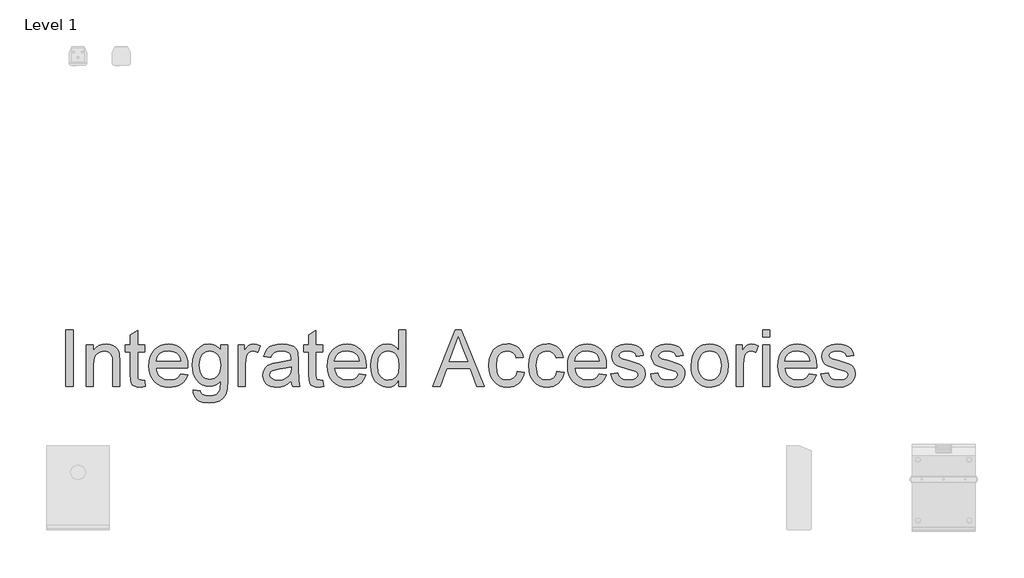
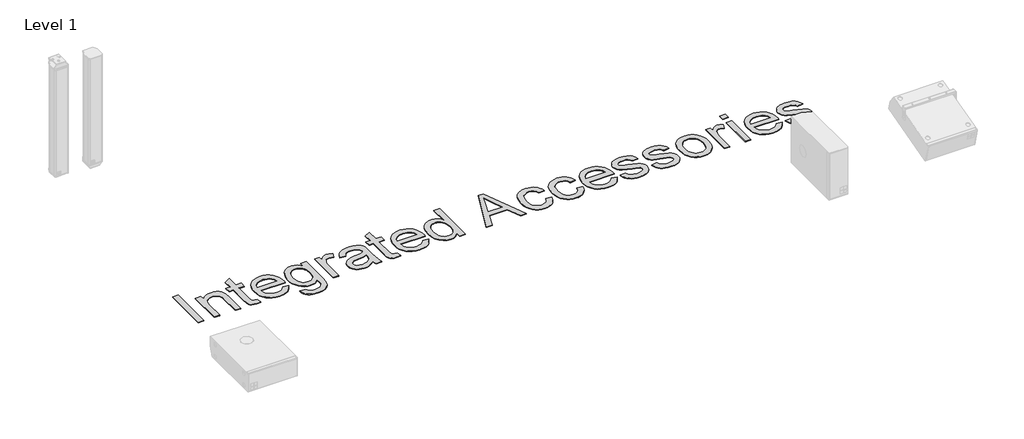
# One storey, part 3 of 8: 1 proxy.
"""IFC4 building model written with IfcOpenShell, lengths in millimetres."""

from ifc_helpers import new_model, si_unit, origin, origin_with_axes, place, context, project, spatial, polyline, outline, extrude, element, save

model = new_model("IFC4")

# Units and contexts
model_context = context("Model", 3, world=origin())
ifc_project = project(units=[si_unit("LENGTHUNIT", "METRE", prefix="MILLI")], contexts=[model_context])

# Site, building, storey
site = spatial("IfcSite", under=ifc_project)
building = spatial("IfcBuilding", under=site)
storey = spatial("IfcBuildingStorey", under=building, Name="Level 1", Elevation=0.0)

# Proxy
placement = place(None, origin())
element("IfcBuildingElementProxy", 1, Name="400mm Arial", ObjectType="400mm Arial", at=placement, inside=storey, context=model_context, shape_type="SweptSolid", body=[
    extrude(outline(polyline([(-11437.7764845, 8351.3054836), (-11437.7764845, 8743.0630593), (-11388.8067875, 8743.0630593), (-11388.8067875, 8351.3054836), (-11437.7764845, 8351.3054836)])), origin_with_axes(), (0.0, 0.0, 1.0), 5.0),
    extrude(outline(polyline([(-11296.9886057, 8351.3054836), (-11296.9886057, 8639.0024533), (-11248.0189088, 8639.0024533), (-11248.0189088, 8598.8319987), (-11231.006243, 8619.0846029), (-11210.5743065, 8633.5507487), (-11186.7230991, 8642.2304362), (-11159.4526209, 8645.1236654), (-11135.3144817, 8642.7923444), (-11113.2087762, 8635.7983813), (-11094.7734069, 8625.0145271), (-11081.6462762, 8611.3135328), (-11072.7394343, 8594.7312648), (-11066.9649315, 8575.3035896), (-11064.3825451, 8527.9598396), (-11064.3825451, 8351.3054836), (-11113.3522421, 8351.3054836), (-11113.3522421, 8521.3604078), (-11114.7629902, 8546.6821408), (-11118.9952345, 8564.6871124), (-11126.8021711, 8577.5870887), (-11138.9369959, 8587.5938358), (-11154.4910915, 8594.0139353), (-11172.5558406, 8596.1539684), (-11201.2370669, 8591.3478605), (-11225.6860489, 8576.9295366), (-11235.4566751, 8565.1593543), (-11242.4356938, 8549.0732393), (-11246.623105, 8528.6711914), (-11248.0189088, 8503.9532108), (-11248.0189088, 8351.3054836), (-11296.9886057, 8351.3054836)])), origin_with_axes(), (0.0, 0.0, 1.0), 5.0),
    extrude(outline(polyline([(-10892.9886057, 8392.1454457), (-10886.8673936, 8349.8708245), (-10923.4990224, 8345.1842715), (-10947.0035205, 8347.2167052), (-10964.5302724, 8353.3140063), (-10976.9161625, 8362.7110233), (-10984.9980754, 8374.6426048), (-10989.4455186, 8395.1343188), (-10990.9279997, 8430.2117336), (-10990.9279997, 8590.0327563), (-11027.6552724, 8590.0327563), (-11027.6552724, 8639.0024533), (-10990.9279997, 8639.0024533), (-10990.9279997, 8708.918173), (-10941.9583027, 8737.7069987), (-10941.9583027, 8639.0024533), (-10892.9886057, 8639.0024533), (-10892.9886057, 8590.0327563), (-10941.9583027, 8590.0327563), (-10941.9583027, 8431.6463927), (-10939.3759163, 8406.3963927), (-10931.0070716, 8397.4536843), (-10914.3172042, 8394.1539684), (-10892.9886057, 8392.1454457)])), origin_with_axes(), (0.0, 0.0, 1.0), 5.0),
    extrude(outline(polyline([(-10642.5927724, 8437.0024533), (-10594.5795148, 8430.8812411), (-10601.9411093, 8411.6508316), (-10611.8791124, 8394.7039211), (-10624.3935241, 8380.0405096), (-10639.4843444, 8367.6605972), (-10656.9961519, 8357.8272047), (-10676.7735252, 8350.8033529), (-10723.1249694, 8345.1842715), (-10753.5098534, 8347.6082475), (-10780.583066, 8354.8801758), (-10804.3446071, 8367.0000563), (-10824.7944769, 8383.9678889), (-10841.2392568, 8405.3114317), (-10852.9855281, 8430.5584429), (-10860.0332909, 8459.7089223), (-10862.3825451, 8492.7628699), (-10860.0093799, 8526.937645), (-10852.8898841, 8557.0595082), (-10841.0240579, 8583.1284594), (-10824.4119012, 8605.1444987), (-10804.0158311, 8622.6353841), (-10780.7982648, 8635.1288737), (-10754.7592023, 8642.6249675), (-10725.8986436, 8645.1236654), (-10697.9676244, 8642.6309452), (-10672.7086578, 8635.1527847), (-10650.1217438, 8622.6891839), (-10630.2068822, 8605.2401427), (-10613.9504014, 8583.2719253), (-10602.3386294, 8557.2507961), (-10595.3715662, 8527.1767549), (-10593.0492118, 8493.0498018), (-10593.3361436, 8479.8509381), (-10813.4128482, 8479.8509381), (-10810.5764076, 8460.3096858), (-10804.936404, 8443.1953983), (-10796.4928375, 8428.5080759), (-10785.245708, 8416.2477184), (-10756.8275025, 8399.6774059), (-10722.16853, 8394.1539684), (-10696.1055565, 8396.7124438), (-10674.1552724, 8404.3878699), (-10656.3176777, 8417.6584665), (-10642.5927724, 8437.0024533)]), holes=[polyline([(-10813.4128482, 8528.8206351), (-10642.0189088, 8528.8206351), (-10648.6422516, 8554.6923207), (-10661.6259163, 8573.199423), (-10674.9802014, 8583.2420366), (-10690.1756322, 8590.4153321), (-10726.0899315, 8596.1539684), (-10759.0990461, 8591.5750148), (-10786.3934353, 8577.838154), (-10805.3668018, 8556.4258671), (-10813.4128482, 8528.8206351)])]), origin_with_axes(), (0.0, 0.0, 1.0), 5.0),
    extrude(outline(polyline([(-10556.3219391, 8326.8206351), (-10507.3522421, 8320.699423), (-10501.9483595, 8305.3963927), (-10491.4753482, 8294.8755593), (-10470.8879902, 8286.6980025), (-10443.9403103, 8283.9721502), (-10415.1993065, 8287.0566673), (-10393.822886, 8296.3102184), (-10378.9980754, 8311.135029), (-10369.9119012, 8330.9333245), (-10366.5643633, 8388.0327563), (-10382.8596995, 8371.9645745), (-10401.0440035, 8360.4873018), (-10421.1172752, 8353.6009381), (-10443.0795148, 8351.3054836), (-10469.9285619, 8353.9775361), (-10493.5675593, 8361.9936938), (-10513.996507, 8375.3539566), (-10531.215405, 8394.0583245), (-10544.8775439, 8416.4987838), (-10554.6362146, 8441.0673207), (-10560.491417, 8467.7639353), (-10562.4431512, 8496.5886275), (-10558.9401919, 8536.125441), (-10548.4313141, 8572.4820934), (-10531.2871379, 8603.2913974), (-10507.8782838, 8626.1861654), (-10479.0057696, 8640.3892904), (-10445.4706133, 8645.1236654), (-10422.5698676, 8642.4456351), (-10401.785244, 8634.4115442), (-10383.1167426, 8621.0213927), (-10366.5643633, 8602.2751805), (-10366.5643633, 8639.0024533), (-10317.5946663, 8639.0024533), (-10317.5946663, 8390.6151427), (-10320.9422042, 8333.2646455), (-10330.9848179, 8295.4972449), (-10348.2844154, 8270.4504883), (-10373.402905, 8251.261923), (-10405.7903339, 8239.0673207), (-10444.8967497, 8235.0024533), (-10490.4591313, 8240.7291341), (-10509.6088413, 8247.8874852), (-10526.3375641, 8257.9091768), (-10539.8502594, 8270.8061642), (-10549.351887, 8286.5904031), (-10554.8424469, 8305.2618934), (-10556.3219391, 8326.8206351)]), holes=[polyline([(-10513.4734542, 8499.9361654), (-10508.248904, 8455.0193804), (-10501.7182163, 8437.8243934), (-10492.5752535, 8424.1383434), (-10481.4596344, 8413.6982097), (-10469.0109779, 8406.2409713), (-10455.229284, 8401.7666282), (-10440.1145527, 8400.2751805), (-10411.4333264, 8406.2051048), (-10387.7494959, 8423.9948775), (-10378.4810004, 8437.5464282), (-10371.8606464, 8454.4813832), (-10366.5643633, 8498.5015063), (-10372.0160679, 8540.9554599), (-10378.8306985, 8557.7260269), (-10388.3711815, 8571.525654), (-10412.4017213, 8589.9968898), (-10426.0847823, 8594.6146988), (-10440.8797042, 8596.1539684), (-10455.4265496, 8594.6386098), (-10468.843601, 8590.0925338), (-10492.2883216, 8571.9082298), (-10501.5568171, 8558.3178238), (-10508.1771711, 8541.7923444), (-10513.4734542, 8499.9361654)])]), origin_with_axes(), (0.0, 0.0, 1.0), 5.0),
    extrude(outline(polyline([(-10244.1401209, 8351.3054836), (-10244.1401209, 8639.0024533), (-10201.291636, 8639.0024533), (-10201.291636, 8596.4409002), (-10185.4625641, 8621.1170366), (-10170.8768633, 8635.6549154), (-10156.2433406, 8642.7564779), (-10140.2708027, 8645.1236654), (-10115.8815982, 8641.3457298), (-10091.1098179, 8630.011923), (-10107.4649315, 8586.1113548), (-10124.6808406, 8593.643315), (-10141.8967497, 8596.1539684), (-10156.5183169, 8593.738959), (-10169.5856701, 8586.4939305), (-10180.1423699, 8574.9688358), (-10187.2319769, 8559.7136275), (-10193.1858122, 8532.3594608), (-10195.1704239, 8502.5185518), (-10195.1704239, 8351.3054836), (-10244.1401209, 8351.3054836)])), origin_with_axes(), (0.0, 0.0, 1.0), 5.0),
    extrude(outline(polyline([(-9876.8673936, 8388.0327563), (-9900.2642923, 8367.97144), (-9924.3546095, 8354.8443093), (-9949.688298, 8347.5992809), (-9976.8153103, 8345.1842715), (-9998.6191396, 8346.6368638), (-10017.7389608, 8350.9946408), (-10034.1747741, 8358.2576024), (-10047.9265792, 8368.4257487), (-10058.7851552, 8380.8534831), (-10066.5412809, 8394.895209), (-10071.1949563, 8410.5509263), (-10072.7461815, 8427.8206351), (-10070.402905, 8448.1210612), (-10063.3730754, 8466.5564305), (-10052.5294438, 8482.3376805), (-10038.744761, 8494.6757487), (-10004.4564088, 8510.7439305), (-9962.0861436, 8518.1085139), (-9912.0165413, 8525.855673), (-9877.1543254, 8534.9418472), (-9876.8673936, 8545.8452563), (-9880.2388425, 8567.6998965), (-9890.3531891, 8581.9986654), (-9912.9729807, 8592.6151427), (-9944.4876588, 8596.1539684), (-9973.6590603, 8593.7987364), (-9994.0312194, 8586.7330404), (-10007.9235016, 8573.6656872), (-10017.6552724, 8553.3054836), (-10066.6249694, 8559.4266957), (-10058.1246143, 8586.2069987), (-10045.4398368, 8607.2486654), (-10027.3870432, 8623.3407582), (-10002.7826398, 8635.2723396), (-9972.6906654, 8642.660834), (-9938.1751588, 8645.1236654), (-9905.0704002, 8642.9477658), (-9878.8280944, 8636.4200669), (-9859.0417544, 8626.6046076), (-9845.3048936, 8614.5654268), (-9836.1948084, 8599.6808387), (-9830.2887951, 8581.3291578), (-9827.8976966, 8538.480673), (-9827.8976966, 8477.5554836), (-9825.4109542, 8392.4801995), (-9815.6552724, 8351.3054836), (-9864.6249694, 8351.3054836), (-9872.4677724, 8368.3301048), (-9876.8673936, 8388.0327563)]), holes=[polyline([(-9876.8673936, 8485.9721502), (-9909.7689088, 8477.8185044), (-9955.8692875, 8470.9560518), (-9998.0004429, 8463.0176048), (-10008.9636294, 8457.5898112), (-10017.0814088, 8450.105673), (-10022.1027156, 8441.1390536), (-10023.7764845, 8431.2638169), (-10020.1300593, 8416.7020271), (-10009.1907838, 8404.7704457), (-9991.1977677, 8396.8080877), (-9966.3901209, 8394.1539684), (-9940.0880375, 8397.0830641), (-9916.8465603, 8405.870351), (-9898.0047042, 8418.8181493), (-9884.9014845, 8434.228779), (-9879.0911152, 8450.105673), (-9877.1543254, 8472.103779), (-9876.8673936, 8485.9721502)])]), origin_with_axes(), (0.0, 0.0, 1.0), 5.0),
    extrude(outline(polyline([(-9656.5037572, 8392.1454457), (-9650.3825451, 8349.8708245), (-9687.0141739, 8345.1842715), (-9710.518672, 8347.2167052), (-9728.0454239, 8353.3140063), (-9740.4313141, 8362.7110233), (-9748.5132269, 8374.6426048), (-9752.9606701, 8395.1343188), (-9754.4431512, 8430.2117336), (-9754.4431512, 8590.0327563), (-9791.1704239, 8590.0327563), (-9791.1704239, 8639.0024533), (-9754.4431512, 8639.0024533), (-9754.4431512, 8708.918173), (-9705.4734542, 8737.7069987), (-9705.4734542, 8639.0024533), (-9656.5037572, 8639.0024533), (-9656.5037572, 8590.0327563), (-9705.4734542, 8590.0327563), (-9705.4734542, 8431.6463927), (-9702.8910679, 8406.3963927), (-9694.5222232, 8397.4536843), (-9677.8323557, 8394.1539684), (-9656.5037572, 8392.1454457)])), origin_with_axes(), (0.0, 0.0, 1.0), 5.0),
    extrude(outline(polyline([(-9406.1079239, 8437.0024533), (-9358.0946663, 8430.8812411), (-9365.4562608, 8411.6508316), (-9375.3942639, 8394.7039211), (-9387.9086756, 8380.0405096), (-9402.9994959, 8367.6605972), (-9420.5113034, 8357.8272047), (-9440.2886768, 8350.8033529), (-9486.6401209, 8345.1842715), (-9517.0250049, 8347.6082475), (-9544.0982175, 8354.8801758), (-9567.8597587, 8367.0000563), (-9588.3096285, 8383.9678889), (-9604.7544083, 8405.3114317), (-9616.5006796, 8430.5584429), (-9623.5484424, 8459.7089223), (-9625.8976966, 8492.7628699), (-9623.5245314, 8526.937645), (-9616.4050357, 8557.0595082), (-9604.5392094, 8583.1284594), (-9587.9270527, 8605.1444987), (-9567.5309826, 8622.6353841), (-9544.3134163, 8635.1288737), (-9518.2743538, 8642.6249675), (-9489.4137951, 8645.1236654), (-9461.4827759, 8642.6309452), (-9436.2238093, 8635.1527847), (-9413.6368953, 8622.6891839), (-9393.7220338, 8605.2401427), (-9377.4655529, 8583.2719253), (-9365.8537809, 8557.2507961), (-9358.8867177, 8527.1767549), (-9356.5643633, 8493.0498018), (-9356.8512951, 8479.8509381), (-9576.9279997, 8479.8509381), (-9574.0915591, 8460.3096858), (-9568.4515555, 8443.1953983), (-9560.007989, 8428.5080759), (-9548.7608595, 8416.2477184), (-9520.342654, 8399.6774059), (-9485.6836815, 8394.1539684), (-9459.620708, 8396.7124438), (-9437.6704239, 8404.3878699), (-9419.8328292, 8417.6584665), (-9406.1079239, 8437.0024533)]), holes=[polyline([(-9576.9279997, 8528.8206351), (-9405.5340603, 8528.8206351), (-9412.1574031, 8554.6923207), (-9425.1410679, 8573.199423), (-9438.4953529, 8583.2420366), (-9453.6907838, 8590.4153321), (-9489.605083, 8596.1539684), (-9522.6141976, 8591.5750148), (-9549.9085868, 8577.838154), (-9568.8819533, 8556.4258671), (-9576.9279997, 8528.8206351)])]), origin_with_axes(), (0.0, 0.0, 1.0), 5.0),
    extrude(outline(polyline([(-9130.0795148, 8351.3054836), (-9130.0795148, 8397.5015063), (-9144.7309708, 8374.6127161), (-9162.4788993, 8358.2635802), (-9183.3233003, 8348.4540986), (-9207.2641739, 8345.1842715), (-9238.9223179, 8349.9186465), (-9267.9024315, 8364.1217715), (-9292.4351019, 8386.8013406), (-9310.7509163, 8416.965048), (-9322.1564561, 8453.3934334), (-9325.9583027, 8494.8670366), (-9322.4553434, 8535.8265536), (-9311.9464656, 8572.8168472), (-9294.4436247, 8603.7337506), (-9269.9587762, 8626.4730972), (-9240.3450214, 8640.4610233), (-9207.4554618, 8645.1236654), (-9183.496655, 8641.788083), (-9162.3115224, 8631.7813358), (-9144.3543728, 8616.4424391), (-9130.0795148, 8597.1104078), (-9130.0795148, 8743.0630593), (-9081.1098179, 8743.0630593), (-9081.1098179, 8351.3054836), (-9130.0795148, 8351.3054836)]), holes=[polyline([(-9276.9886057, 8495.0583245), (-9271.4651682, 8450.763225), (-9264.5608714, 8433.4128167), (-9254.8948557, 8419.2605025), (-9230.816494, 8400.4306019), (-9217.2888543, 8395.7231268), (-9202.7689088, 8394.1539684), (-9174.733279, 8400.1436701), (-9151.2646474, 8418.1127752), (-9141.9961519, 8431.6732925), (-9135.375798, 8448.3960375), (-9130.0795148, 8491.3282108), (-9135.4714419, 8538.2654741), (-9142.2113508, 8556.3362009), (-9151.6472232, 8570.8083245), (-9163.0557518, 8581.8970437), (-9175.7136294, 8589.8175574), (-9189.620856, 8594.5698657), (-9204.7774315, 8596.1539684), (-9219.5843089, 8594.632632), (-9233.1119485, 8590.0686228), (-9245.3603505, 8582.4619407), (-9256.3295148, 8571.8125858), (-9265.3678671, 8557.887426), (-9271.823833, 8540.4533292), (-9276.9886057, 8495.0583245)])]), origin_with_axes(), (0.0, 0.0, 1.0), 5.0),
    extrude(outline(polyline([(-8894.1259163, 8351.3054836), (-8737.7480754, 8743.0630593), (-8696.0473179, 8743.0630593), (-8539.6694769, 8351.3054836), (-8591.4128482, 8351.3054836), (-8636.2698557, 8473.729726), (-8797.6211815, 8473.729726), (-8842.3825451, 8351.3054836), (-8894.1259163, 8351.3054836)]), holes=[polyline([(-8779.6401209, 8522.699423), (-8654.1552724, 8522.699423), (-8689.447886, 8619.0128699), (-8716.8976966, 8694.0933624), (-8741.2869012, 8627.4295366), (-8779.6401209, 8522.699423)])]), origin_with_axes(), (0.0, 0.0, 1.0), 5.0),
    extrude(outline(polyline([(-8309.8370906, 8455.3660896), (-8260.8673936, 8449.2448775), (-8266.1935655, 8426.1378995), (-8274.520566, 8405.6910186), (-8285.848395, 8387.9042348), (-8300.1770527, 8372.777548), (-8316.9027866, 8360.7054895), (-8335.4218444, 8352.0825906), (-8355.734226, 8346.9088512), (-8377.8399315, 8345.1842715), (-8405.3046865, 8347.5903143), (-8429.930012, 8354.8084429), (-8451.715908, 8366.8386571), (-8470.6623747, 8383.6809571), (-8485.9982826, 8405.0185222), (-8496.9525025, 8430.5345319), (-8503.5250345, 8460.2289862), (-8505.7158785, 8494.1018851), (-8501.9738093, 8537.679655), (-8490.7476019, 8575.4470555), (-8471.8579239, 8605.9455167), (-8445.1254429, 8627.7164684), (-8413.1445006, 8640.7718661), (-8378.5094391, 8645.1236654), (-8356.7833205, 8643.6292288), (-8337.1314798, 8639.1459192), (-8319.553917, 8631.6737364), (-8304.0506322, 8621.2126805), (-8290.8846462, 8608.0018614), (-8280.3189798, 8592.2803889), (-8272.353633, 8574.0482629), (-8266.9886057, 8553.3054836), (-8315.9583027, 8547.1842715), (-8324.8412336, 8568.5487364), (-8338.6737383, 8583.8637222), (-8356.6906654, 8593.0814069), (-8378.1268633, 8596.1539684), (-8394.7659199, 8594.6415986), (-8409.7730518, 8590.1044893), (-8423.1482589, 8582.5426403), (-8434.8915413, 8571.9560518), (-8444.4529464, 8558.099636), (-8451.2825214, 8540.7283055), (-8456.7461815, 8495.4409002), (-8451.4020764, 8449.5437648), (-8444.721945, 8432.0558683), (-8435.369761, 8418.2084192), (-8423.8596107, 8407.684597), (-8410.7055802, 8400.1675811), (-8395.9076694, 8395.6573716), (-8379.4658785, 8394.1539684), (-8354.108279, 8397.907993), (-8333.3176777, 8409.1700669), (-8318.1939798, 8428.2271218), (-8309.8370906, 8455.3660896)])), origin_with_axes(), (0.0, 0.0, 1.0), 5.0),
    extrude(outline(polyline([(-8034.3825451, 8455.3660896), (-7985.4128482, 8449.2448775), (-7990.73902, 8426.1378995), (-7999.0660205, 8405.6910186), (-8010.3938496, 8387.9042348), (-8024.7225072, 8372.777548), (-8041.4482411, 8360.7054895), (-8059.9672989, 8352.0825906), (-8080.2796805, 8346.9088512), (-8102.385386, 8345.1842715), (-8129.850141, 8347.5903143), (-8154.4754665, 8354.8084429), (-8176.2613626, 8366.8386571), (-8195.2078292, 8383.6809571), (-8210.5437371, 8405.0185222), (-8221.4979571, 8430.5345319), (-8228.070489, 8460.2289862), (-8230.261333, 8494.1018851), (-8226.5192639, 8537.679655), (-8215.2930565, 8575.4470555), (-8196.4033785, 8605.9455167), (-8169.6708974, 8627.7164684), (-8137.6899552, 8640.7718661), (-8103.0548936, 8645.1236654), (-8081.328775, 8643.6292288), (-8061.6769343, 8639.1459192), (-8044.0993716, 8631.6737364), (-8028.5960868, 8621.2126805), (-8015.4301008, 8608.0018614), (-8004.8644343, 8592.2803889), (-7996.8990875, 8574.0482629), (-7991.5340603, 8553.3054836), (-8040.5037572, 8547.1842715), (-8049.3866881, 8568.5487364), (-8063.2191929, 8583.8637222), (-8081.2361199, 8593.0814069), (-8102.6723179, 8596.1539684), (-8119.3113744, 8594.6415986), (-8134.3185063, 8590.1044893), (-8147.6937134, 8582.5426403), (-8159.4369959, 8571.9560518), (-8168.9984009, 8558.099636), (-8175.827976, 8540.7283055), (-8181.291636, 8495.4409002), (-8175.9475309, 8449.5437648), (-8169.2673995, 8432.0558683), (-8159.9152156, 8418.2084192), (-8148.4050652, 8407.684597), (-8135.2510347, 8400.1675811), (-8120.453124, 8395.6573716), (-8104.011333, 8394.1539684), (-8078.6537336, 8397.907993), (-8057.8631322, 8409.1700669), (-8042.7394343, 8428.2271218), (-8034.3825451, 8455.3660896)])), origin_with_axes(), (0.0, 0.0, 1.0), 5.0),
    extrude(outline(polyline([(-7741.1382269, 8437.0024533), (-7693.1249694, 8430.8812411), (-7700.4865638, 8411.6508316), (-7710.4245669, 8394.7039211), (-7722.9389786, 8380.0405096), (-7738.0297989, 8367.6605972), (-7755.5416064, 8357.8272047), (-7775.3189798, 8350.8033529), (-7821.6704239, 8345.1842715), (-7852.0553079, 8347.6082475), (-7879.1285205, 8354.8801758), (-7902.8900617, 8367.0000563), (-7923.3399315, 8383.9678889), (-7939.7847113, 8405.3114317), (-7951.5309826, 8430.5584429), (-7958.5787454, 8459.7089223), (-7960.9279997, 8492.7628699), (-7958.5548344, 8526.937645), (-7951.4353387, 8557.0595082), (-7939.5695125, 8583.1284594), (-7922.9573557, 8605.1444987), (-7902.5612857, 8622.6353841), (-7879.3437194, 8635.1288737), (-7853.3046569, 8642.6249675), (-7824.4440982, 8645.1236654), (-7796.513079, 8642.6309452), (-7771.2541124, 8635.1527847), (-7748.6671983, 8622.6891839), (-7728.7523368, 8605.2401427), (-7712.495856, 8583.2719253), (-7700.8840839, 8557.2507961), (-7693.9170207, 8527.1767549), (-7691.5946663, 8493.0498018), (-7691.8815982, 8479.8509381), (-7911.9583027, 8479.8509381), (-7909.1218621, 8460.3096858), (-7903.4818586, 8443.1953983), (-7895.038292, 8428.5080759), (-7883.7911625, 8416.2477184), (-7855.3729571, 8399.6774059), (-7820.7139845, 8394.1539684), (-7794.651011, 8396.7124438), (-7772.7007269, 8404.3878699), (-7754.8631322, 8417.6584665), (-7741.1382269, 8437.0024533)]), holes=[polyline([(-7911.9583027, 8528.8206351), (-7740.5643633, 8528.8206351), (-7747.1877061, 8554.6923207), (-7760.1713709, 8573.199423), (-7773.5256559, 8583.2420366), (-7788.7210868, 8590.4153321), (-7824.635386, 8596.1539684), (-7857.6445006, 8591.5750148), (-7884.9388898, 8577.838154), (-7903.9122563, 8556.4258671), (-7911.9583027, 8528.8206351)])]), origin_with_axes(), (0.0, 0.0, 1.0), 5.0),
    extrude(outline(polyline([(-7660.9886057, 8437.0024533), (-7612.0189088, 8443.1236654), (-7604.2956607, 8422.1776427), (-7589.3512951, 8406.7789684), (-7567.0901682, 8397.3102184), (-7537.416636, 8394.1539684), (-7508.1017686, 8397.0471976), (-7487.4904997, 8405.7268851), (-7475.2958974, 8418.3040631), (-7471.23103, 8432.8897639), (-7475.3198084, 8445.371298), (-7487.5861436, 8454.8878699), (-7537.9904997, 8468.8518851), (-7611.7319769, 8492.8106919), (-7630.3945006, 8504.8498728), (-7643.9161625, 8520.7865442), (-7652.1295858, 8539.6044893), (-7654.8673936, 8560.2874911), (-7652.667583, 8579.2608576), (-7646.0681512, 8596.775654), (-7635.6668728, 8612.1384618), (-7622.0615224, 8624.6558624), (-7590.9294201, 8639.1459192), (-7548.7982648, 8645.1236654), (-7516.924922, 8642.7206114), (-7489.2120906, 8635.5114495), (-7466.9270527, 8624.2015536), (-7451.3370906, 8609.496298), (-7441.0075451, 8590.3077326), (-7434.5037572, 8565.5479078), (-7483.4734542, 8559.4266957), (-7489.6544438, 8574.8373254), (-7501.8849125, 8586.4461086), (-7520.2844154, 8593.7270035), (-7544.9725072, 8596.1539684), (-7573.0918254, 8593.8346029), (-7591.8380375, 8586.8765063), (-7602.3827819, 8576.8338927), (-7605.8976966, 8565.260976), (-7600.0634163, 8551.010029), (-7581.7954239, 8540.2022639), (-7539.6164466, 8529.7770745), (-7467.7400262, 8506.7268851), (-7448.7547042, 8495.7039211), (-7434.3602913, 8480.6160896), (-7425.2860726, 8461.4155688), (-7422.261333, 8438.0545366), (-7425.8121143, 8413.9044419), (-7436.464458, 8391.1890063), (-7453.8118775, 8371.6895982), (-7477.447886, 8357.1875858), (-7505.9976019, 8348.1851), (-7538.0861436, 8345.1842715), (-7564.4420267, 8346.630886), (-7587.4623273, 8350.9707298), (-7607.1470456, 8358.2038027), (-7623.4961815, 8368.3301048), (-7636.8504665, 8381.3018141), (-7647.5506322, 8397.0711086), (-7655.5966786, 8415.6379883), (-7660.9886057, 8437.0024533)])), origin_with_axes(), (0.0, 0.0, 1.0), 5.0),
    extrude(outline(polyline([(-7385.5340603, 8437.0024533), (-7336.5643633, 8443.1236654), (-7328.8411152, 8422.1776427), (-7313.8967497, 8406.7789684), (-7291.6356228, 8397.3102184), (-7261.9620906, 8394.1539684), (-7232.6472232, 8397.0471976), (-7212.0359542, 8405.7268851), (-7199.8413519, 8418.3040631), (-7195.7764845, 8432.8897639), (-7199.8652629, 8445.371298), (-7212.1315982, 8454.8878699), (-7262.5359542, 8468.8518851), (-7336.2774315, 8492.8106919), (-7354.9399552, 8504.8498728), (-7368.4616171, 8520.7865442), (-7376.6750404, 8539.6044893), (-7379.4128482, 8560.2874911), (-7377.2130375, 8579.2608576), (-7370.6136057, 8596.775654), (-7360.2123273, 8612.1384618), (-7346.6069769, 8624.6558624), (-7315.4748747, 8639.1459192), (-7273.3437194, 8645.1236654), (-7241.4703766, 8642.7206114), (-7213.7575451, 8635.5114495), (-7191.4725072, 8624.2015536), (-7175.8825451, 8609.496298), (-7165.5529997, 8590.3077326), (-7159.0492118, 8565.5479078), (-7208.0189088, 8559.4266957), (-7214.1998983, 8574.8373254), (-7226.4303671, 8586.4461086), (-7244.8298699, 8593.7270035), (-7269.5179618, 8596.1539684), (-7297.63728, 8593.8346029), (-7316.3834921, 8586.8765063), (-7326.9282364, 8576.8338927), (-7330.4431512, 8565.260976), (-7324.6088709, 8551.010029), (-7306.3408785, 8540.2022639), (-7264.1619012, 8529.7770745), (-7192.2854807, 8506.7268851), (-7173.3001588, 8495.7039211), (-7158.9057459, 8480.6160896), (-7149.8315271, 8461.4155688), (-7146.8067875, 8438.0545366), (-7150.3575688, 8413.9044419), (-7161.0099125, 8391.1890063), (-7178.3573321, 8371.6895982), (-7201.9933406, 8357.1875858), (-7230.5430565, 8348.1851), (-7262.6315982, 8345.1842715), (-7288.9874812, 8346.630886), (-7312.0077819, 8350.9707298), (-7331.6925001, 8358.2038027), (-7348.041636, 8368.3301048), (-7361.3959211, 8381.3018141), (-7372.0960868, 8397.0711086), (-7380.1421332, 8415.6379883), (-7385.5340603, 8437.0024533)])), origin_with_axes(), (0.0, 0.0, 1.0), 5.0),
    extrude(outline(polyline([(-7103.9583027, 8495.1539684), (-7101.3101611, 8532.4132606), (-7093.3657364, 8564.5197355), (-7080.1250286, 8591.4733931), (-7061.5880375, 8613.2742336), (-7042.9255139, 8627.20836), (-7022.3262004, 8637.1613074), (-6999.7900972, 8643.1330759), (-6975.3172042, 8645.1236654), (-6948.3007802, 8642.6996893), (-6923.8727203, 8635.427761), (-6902.0330245, 8623.3078806), (-6882.7816929, 8606.340048), (-6867.0691869, 8585.0981268), (-6855.8459684, 8560.1559807), (-6849.1120373, 8531.5136098), (-6846.8673936, 8499.1710139), (-6850.8366171, 8449.6991862), (-6862.7442875, 8412.0393851), (-6882.2436957, 8383.8363785), (-6908.9881322, 8362.7349343), (-6940.7538756, 8349.5719372), (-6975.3172042, 8345.1842715), (-7002.7281595, 8347.5992809), (-7027.3833737, 8354.8443093), (-7049.282847, 8366.9193567), (-7068.4265792, 8383.824423), (-7083.9717082, 8405.2725764), (-7095.0753718, 8430.9768851), (-7101.73757, 8460.9373491), (-7103.9583027, 8495.1539684)]), holes=[polyline([(-7054.9886057, 8495.2496124), (-7053.5718799, 8471.4970378), (-7049.3217023, 8450.9306019), (-7042.2380731, 8433.5503048), (-7032.3209921, 8419.3561465), (-7020.2579002, 8408.3301936), (-7006.7362383, 8400.4545129), (-6991.7560063, 8395.7291045), (-6975.3172042, 8394.1539684), (-6958.9620906, 8395.7380712), (-6944.041636, 8400.4903794), (-6930.5558406, 8408.4108931), (-6918.5047042, 8419.4996124), (-6908.5876232, 8433.8342478), (-6901.503994, 8451.4925101), (-6897.2538164, 8472.4743993), (-6895.8370906, 8496.7799154), (-6897.262783, 8519.7792939), (-6901.5398605, 8539.8077326), (-6908.6683228, 8556.8652314), (-6918.6481701, 8570.9517904), (-6930.7441396, 8581.9777433), (-6944.2209684, 8589.8534239), (-6959.0786566, 8594.5788323), (-6975.3172042, 8596.1539684), (-6991.7560063, 8594.58481), (-7006.7362383, 8589.8773349), (-7020.2579002, 8582.031543), (-7032.3209921, 8571.0474343), (-7042.2380731, 8556.8951202), (-7049.3217023, 8539.5447118), (-7053.5718799, 8518.9962092), (-7054.9886057, 8495.2496124)])]), origin_with_axes(), (0.0, 0.0, 1.0), 5.0),
    extrude(outline(polyline([(-6791.7764845, 8351.3054836), (-6791.7764845, 8639.0024533), (-6748.9279997, 8639.0024533), (-6748.9279997, 8596.4409002), (-6733.0989277, 8621.1170366), (-6718.5132269, 8635.6549154), (-6703.8797042, 8642.7564779), (-6687.9071663, 8645.1236654), (-6663.5179618, 8641.3457298), (-6638.7461815, 8630.011923), (-6655.1012951, 8586.1113548), (-6672.3172042, 8593.643315), (-6689.5331133, 8596.1539684), (-6704.1546805, 8593.738959), (-6717.2220338, 8586.4939305), (-6727.7787336, 8574.9688358), (-6734.8683406, 8559.7136275), (-6740.8221758, 8532.3594608), (-6742.8067875, 8502.5185518), (-6742.8067875, 8351.3054836), (-6791.7764845, 8351.3054836)])), origin_with_axes(), (0.0, 0.0, 1.0), 5.0),
    extrude(outline(polyline([(-6608.1401209, 8351.3054836), (-6608.1401209, 8639.0024533), (-6559.1704239, 8639.0024533), (-6559.1704239, 8351.3054836), (-6608.1401209, 8351.3054836)])), origin_with_axes(), (0.0, 0.0, 1.0), 5.0),
    extrude(outline(polyline([(-6608.1401209, 8694.0933624), (-6608.1401209, 8743.0630593), (-6559.1704239, 8743.0630593), (-6559.1704239, 8694.0933624), (-6608.1401209, 8694.0933624)])), origin_with_axes(), (0.0, 0.0, 1.0), 5.0),
    extrude(outline(polyline([(-6284.2897421, 8437.0024533), (-6236.2764845, 8430.8812411), (-6243.638079, 8411.6508316), (-6253.5760821, 8394.7039211), (-6266.0904938, 8380.0405096), (-6281.1813141, 8367.6605972), (-6298.6931216, 8357.8272047), (-6318.4704949, 8350.8033529), (-6364.8219391, 8345.1842715), (-6395.2068231, 8347.6082475), (-6422.2800357, 8354.8801758), (-6446.0415768, 8367.0000563), (-6466.4914466, 8383.9678889), (-6482.9362265, 8405.3114317), (-6494.6824978, 8430.5584429), (-6501.7302606, 8459.7089223), (-6504.0795148, 8492.7628699), (-6501.7063496, 8526.937645), (-6494.5868538, 8557.0595082), (-6482.7210276, 8583.1284594), (-6466.1088709, 8605.1444987), (-6445.7128008, 8622.6353841), (-6422.4952345, 8635.1288737), (-6396.456172, 8642.6249675), (-6367.5956133, 8645.1236654), (-6339.6645941, 8642.6309452), (-6314.4056275, 8635.1527847), (-6291.8187134, 8622.6891839), (-6271.9038519, 8605.2401427), (-6255.6473711, 8583.2719253), (-6244.0355991, 8557.2507961), (-6237.0685359, 8527.1767549), (-6234.7461815, 8493.0498018), (-6235.0331133, 8479.8509381), (-6455.1098179, 8479.8509381), (-6452.2733773, 8460.3096858), (-6446.6333737, 8443.1953983), (-6438.1898072, 8428.5080759), (-6426.9426777, 8416.2477184), (-6398.5244722, 8399.6774059), (-6363.8654997, 8394.1539684), (-6337.8025262, 8396.7124438), (-6315.8522421, 8404.3878699), (-6298.0146474, 8417.6584665), (-6284.2897421, 8437.0024533)]), holes=[polyline([(-6455.1098179, 8528.8206351), (-6283.7158785, 8528.8206351), (-6290.3392213, 8554.6923207), (-6303.322886, 8573.199423), (-6316.6771711, 8583.2420366), (-6331.8726019, 8590.4153321), (-6367.7869012, 8596.1539684), (-6400.7960158, 8591.5750148), (-6428.090405, 8577.838154), (-6447.0637714, 8556.4258671), (-6455.1098179, 8528.8206351)])]), origin_with_axes(), (0.0, 0.0, 1.0), 5.0),
    extrude(outline(polyline([(-6204.1401209, 8437.0024533), (-6155.1704239, 8443.1236654), (-6147.4471758, 8422.1776427), (-6132.5028103, 8406.7789684), (-6110.2416834, 8397.3102184), (-6080.5681512, 8394.1539684), (-6051.2532838, 8397.0471976), (-6030.6420148, 8405.7268851), (-6018.4474125, 8418.3040631), (-6014.3825451, 8432.8897639), (-6018.4713235, 8445.371298), (-6030.7376588, 8454.8878699), (-6081.1420148, 8468.8518851), (-6154.8834921, 8492.8106919), (-6173.5460158, 8504.8498728), (-6187.0676777, 8520.7865442), (-6195.281101, 8539.6044893), (-6198.0189088, 8560.2874911), (-6195.8190982, 8579.2608576), (-6189.2196663, 8596.775654), (-6178.8183879, 8612.1384618), (-6165.2130375, 8624.6558624), (-6134.0809353, 8639.1459192), (-6091.94978, 8645.1236654), (-6060.0764372, 8642.7206114), (-6032.3636057, 8635.5114495), (-6010.0785679, 8624.2015536), (-5994.4886057, 8609.496298), (-5984.1590603, 8590.3077326), (-5977.6552724, 8565.5479078), (-6026.6249694, 8559.4266957), (-6032.8059589, 8574.8373254), (-6045.0364277, 8586.4461086), (-6063.4359305, 8593.7270035), (-6088.1240224, 8596.1539684), (-6116.2433406, 8593.8346029), (-6134.9895527, 8586.8765063), (-6145.534297, 8576.8338927), (-6149.0492118, 8565.260976), (-6143.2149315, 8551.010029), (-6124.9469391, 8540.2022639), (-6082.7679618, 8529.7770745), (-6010.8915413, 8506.7268851), (-5991.9062194, 8495.7039211), (-5977.5118065, 8480.6160896), (-5968.4375877, 8461.4155688), (-5965.4128482, 8438.0545366), (-5968.9636294, 8413.9044419), (-5979.6159732, 8391.1890063), (-5996.9633927, 8371.6895982), (-6020.5994012, 8357.1875858), (-6049.1491171, 8348.1851), (-6081.2376588, 8345.1842715), (-6107.5935418, 8346.630886), (-6130.6138425, 8350.9707298), (-6150.2985607, 8358.2038027), (-6166.6476966, 8368.3301048), (-6180.0019817, 8381.3018141), (-6190.7021474, 8397.0711086), (-6198.7481938, 8415.6379883), (-6204.1401209, 8437.0024533)])), origin_with_axes(), (0.0, 0.0, 1.0), 5.0),
])

save(model, "model.ifc")
